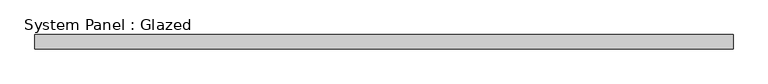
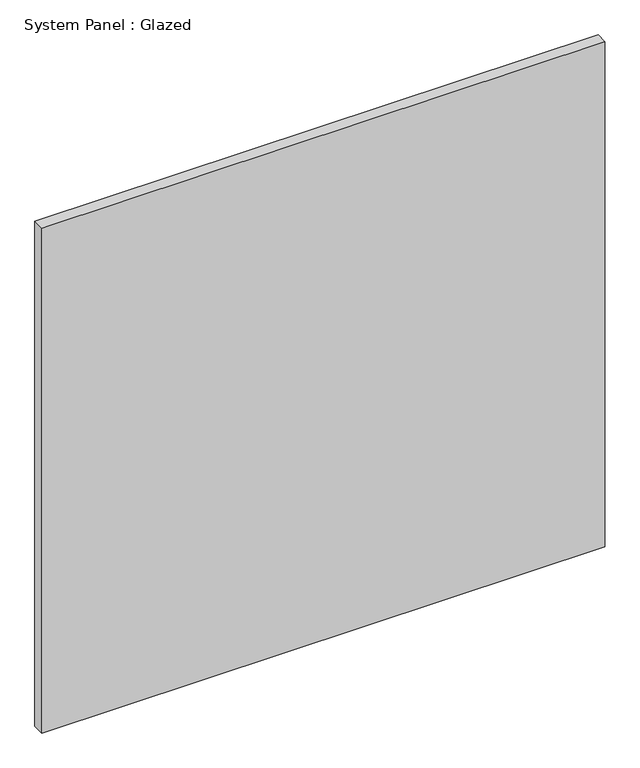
"""IFC4 building model written with IfcOpenShell, lengths in millimetres: plate geometry, System Panel : Glazed."""

from ifc_helpers import new_model, si_unit, origin, origin_with_axes, place, context, project, spatial, polyline, outline, extrude, source, transform, mapped, element, save


def system_panel_glazed_4d8235a8(model_context):
    return source(origin(), model_context, "Body", "SweptSolid", [
        extrude(outline(polyline([(609.6, -44.45), (-609.6, -44.45), (-609.6, -19.05), (609.6, -19.05), (609.6, -44.45)])), origin_with_axes(), (0.0, 0.0, 1.0), 1155.7),
    ])


if __name__ == "__main__":
    model = new_model("IFC4")
    model_context = context("Model", 3, world=origin())
    ifc_project = project(units=[si_unit("LENGTHUNIT", "METRE", prefix="MILLI")], contexts=[model_context])
    site = spatial("IfcSite", under=ifc_project)
    building = spatial("IfcBuilding", under=site)
    placement = place(None, origin())
    system_panel_glazed_shape = system_panel_glazed_4d8235a8(model_context)
    element("IfcPlate", 1, ObjectType="System Panel : Glazed", at=placement, inside=building, context=model_context, shape_type="MappedRepresentation", body=[
        mapped(system_panel_glazed_shape, transform((0.0, 0.0, 0.0), x_axis=(1.0, 0.0, 0.0), y_axis=(0.0, 1.0, 0.0), z_axis=(0.0, 0.0, 1.0))),
    ])
    save(model, "model.ifc")
